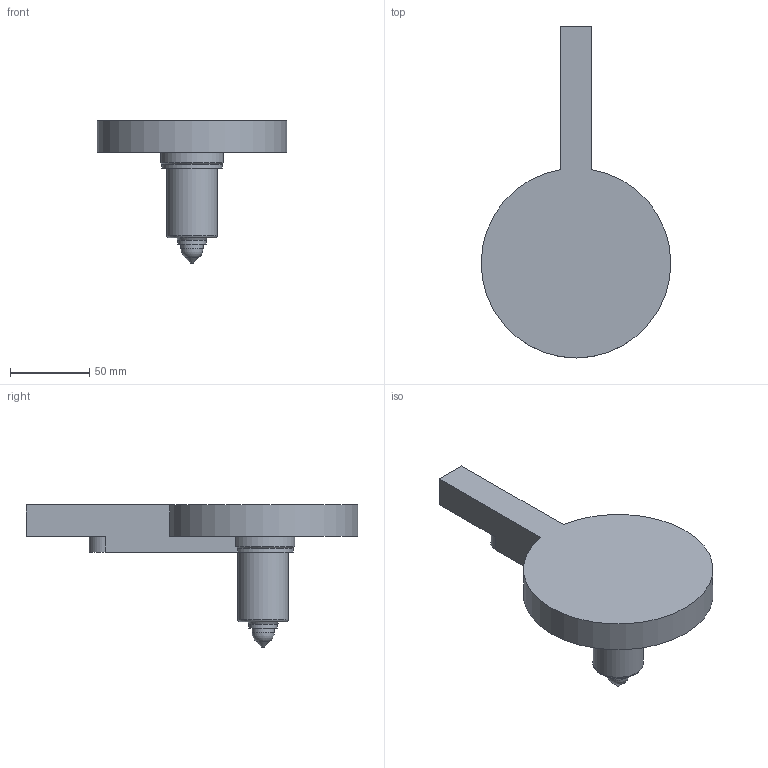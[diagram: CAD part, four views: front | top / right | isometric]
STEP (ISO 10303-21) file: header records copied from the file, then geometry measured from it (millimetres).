
FILE_DESCRIPTION( ( 'STEP AP214' ), '1' );
FILE_NAME( 'S:/PROIECTE_YUDO_2009_dupa_1.07.2009/PROIECTE YUDO 3D 01.07.2009/BIS/YUEU09-BIS18CC085/YUEU09-BIS18CC085_Cut_Out.step', '2009-09-03T12:12:25', ( ' ' ), ( ' ' ), 'XStep 1.0', ' ', ' ' );
FILE_SCHEMA( ( 'automotive_design' ) );
Length unit declared in the file: millimetre
Products named in the file (1): 1
Bounding box: 120 x 210 x 90 mm (x, y, z)
Volume: 329921.5 mm3; surface area: 45196.9 mm2
Topology: 1 solids, 1 shells, 22 faces, 49 edges, 32 vertices
Faces by surface type: plane 10, cylinder 7, cone 3, torus 1, sphere 1
Full cylindrical faces by diameter (mm): 14 x1, 18 x1, 32 x1
Entity records: 756 total; most frequent: DIRECTION 102, CARTESIAN_POINT 99, ORIENTED_EDGE 80, AXIS2_PLACEMENT_3D 41, EDGE_CURVE 40, EDGE_LOOP 32, VERTEX_POINT 30, FACE_OUTER_BOUND 27
